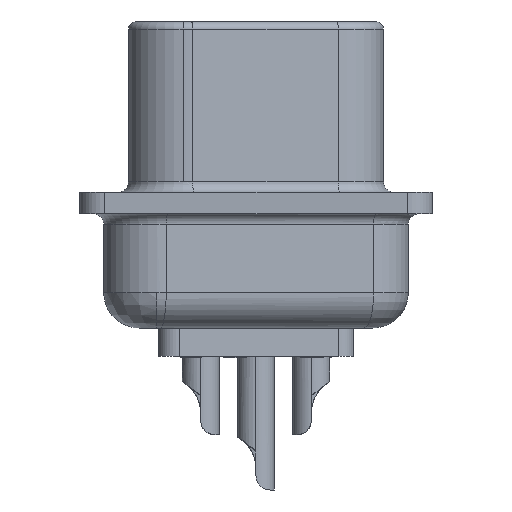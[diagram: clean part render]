
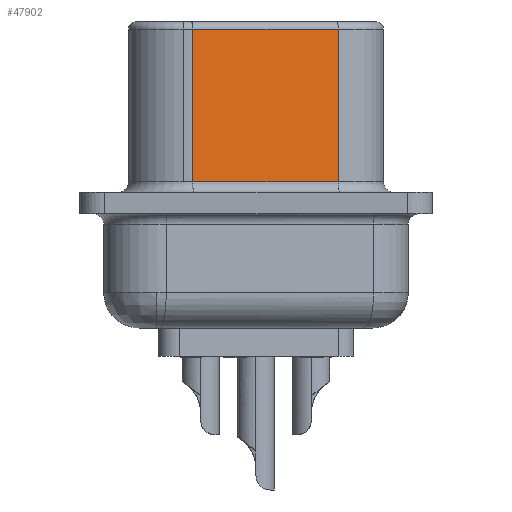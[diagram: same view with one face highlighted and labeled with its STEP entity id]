
A CAD part, left-side view. The second image highlights one B-rep face of the part: STEP entity #47902.
In plain terms, the highlighted planar face has unit normal (-0.985, -0.174, 0).
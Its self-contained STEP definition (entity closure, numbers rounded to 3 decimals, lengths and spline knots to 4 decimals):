
#6069 = VERTEX_POINT('',#6070);
#6070 = CARTESIAN_POINT('',(6.8003,8.5631,5.842));
#6085 = CYLINDRICAL_SURFACE('',#6086,1.9558);
#6086 = AXIS2_PLACEMENT_3D('',#6087,#6088,#6089);
#6087 = CARTESIAN_POINT('',(8.7264,8.9027,6.096));
#6088 = DIRECTION('',(-0.,-0.,-1.));
#6089 = DIRECTION('',(-1.,0.,0.));
#6112 = CYLINDRICAL_SURFACE('',#6113,0.254);
#6113 = AXIS2_PLACEMENT_3D('',#6114,#6115,#6116);
#6114 = CARTESIAN_POINT('',(7.9686,3.4002,5.842));
#6115 = DIRECTION('',(0.174,-0.985,0.));
#6116 = DIRECTION('',(0.985,0.174,0.));
#6273 = VERTEX_POINT('',#6274);
#6274 = CARTESIAN_POINT('',(6.8003,8.5631,0.381));
#6301 = EDGE_CURVE('',#6069,#6273,#6302,.T.);
#6302 = SURFACE_CURVE('',#6303,(#6307,#6314),.PCURVE_S1.);
#6303 = LINE('',#6304,#6305);
#6304 = CARTESIAN_POINT('',(6.8003,8.5631,6.096));
#6305 = VECTOR('',#6306,1.);
#6306 = DIRECTION('',(-0.,-0.,-1.));
#6307 = PCURVE('',#6085,#6308);
#6308 = DEFINITIONAL_REPRESENTATION('',(#6309),#6313);
#6309 = LINE('',#6310,#6311);
#6310 = CARTESIAN_POINT('',(6.109,0.));
#6311 = VECTOR('',#6312,1.);
#6312 = DIRECTION('',(0.,1.));
#6313 = ( GEOMETRIC_REPRESENTATION_CONTEXT(2) 
PARAMETRIC_REPRESENTATION_CONTEXT() REPRESENTATION_CONTEXT('2D SPACE',''
  ) );
#6314 = PCURVE('',#6315,#6320);
#6315 = PLANE('',#6316);
#6316 = AXIS2_PLACEMENT_3D('',#6317,#6318,#6319);
#6317 = CARTESIAN_POINT('',(7.7184,3.3561,6.096));
#6318 = DIRECTION('',(0.985,0.174,-0.));
#6319 = DIRECTION('',(-0.174,0.985,0.));
#6320 = DEFINITIONAL_REPRESENTATION('',(#6321),#6325);
#6321 = LINE('',#6322,#6323);
#6322 = CARTESIAN_POINT('',(5.287,0.));
#6323 = VECTOR('',#6324,1.);
#6324 = DIRECTION('',(0.,-1.));
#6325 = ( GEOMETRIC_REPRESENTATION_CONTEXT(2) 
PARAMETRIC_REPRESENTATION_CONTEXT() REPRESENTATION_CONTEXT('2D SPACE',''
  ) );
#45262 = CYLINDRICAL_SURFACE('',#45263,0.381);
#45263 = AXIS2_PLACEMENT_3D('',#45264,#45265,#45266);
#45264 = CARTESIAN_POINT('',(7.3432,3.2899,0.381));
#45265 = DIRECTION('',(0.174,-0.985,0.));
#45266 = DIRECTION('',(0.985,0.174,0.));
#46237 = EDGE_CURVE('',#46238,#46240,#46242,.T.);
#46238 = VERTEX_POINT('',#46239);
#46239 = CARTESIAN_POINT('',(7.7184,3.3561,5.842));
#46240 = VERTEX_POINT('',#46241);
#46241 = CARTESIAN_POINT('',(7.7184,3.3561,0.381));
#46242 = SURFACE_CURVE('',#46243,(#46247,#46259),.PCURVE_S1.);
#46243 = LINE('',#46244,#46245);
#46244 = CARTESIAN_POINT('',(7.7184,3.3561,6.096));
#46245 = VECTOR('',#46246,1.);
#46246 = DIRECTION('',(-0.,-0.,-1.));
#46247 = PCURVE('',#46248,#46253);
#46248 = CYLINDRICAL_SURFACE('',#46249,1.9558);
#46249 = AXIS2_PLACEMENT_3D('',#46250,#46251,#46252);
#46250 = CARTESIAN_POINT('',(9.6445,3.6957,6.096));
#46251 = DIRECTION('',(-0.,-0.,-1.));
#46252 = DIRECTION('',(-1.,0.,0.));
#46253 = DEFINITIONAL_REPRESENTATION('',(#46254),#46258);
#46254 = LINE('',#46255,#46256);
#46255 = CARTESIAN_POINT('',(6.109,0.));
#46256 = VECTOR('',#46257,1.);
#46257 = DIRECTION('',(0.,1.));
#46258 = ( GEOMETRIC_REPRESENTATION_CONTEXT(2) 
PARAMETRIC_REPRESENTATION_CONTEXT() REPRESENTATION_CONTEXT('2D SPACE',''
  ) );
#46259 = PCURVE('',#6315,#46260);
#46260 = DEFINITIONAL_REPRESENTATION('',(#46261),#46265);
#46261 = LINE('',#46262,#46263);
#46262 = CARTESIAN_POINT('',(0.,0.));
#46263 = VECTOR('',#46264,1.);
#46264 = DIRECTION('',(0.,-1.));
#46265 = ( GEOMETRIC_REPRESENTATION_CONTEXT(2) 
PARAMETRIC_REPRESENTATION_CONTEXT() REPRESENTATION_CONTEXT('2D SPACE',''
  ) );
#47902 = ADVANCED_FACE('',(#47903),#6315,.F.);
#47903 = FACE_BOUND('',#47904,.T.);
#47904 = EDGE_LOOP('',(#47905,#47906,#47927,#47928));
#47905 = ORIENTED_EDGE('',*,*,#6301,.T.);
#47906 = ORIENTED_EDGE('',*,*,#47907,.T.);
#47907 = EDGE_CURVE('',#6273,#46240,#47908,.T.);
#47908 = SURFACE_CURVE('',#47909,(#47913,#47920),.PCURVE_S1.);
#47909 = LINE('',#47910,#47911);
#47910 = CARTESIAN_POINT('',(7.7184,3.3561,0.381));
#47911 = VECTOR('',#47912,1.);
#47912 = DIRECTION('',(0.174,-0.985,0.));
#47913 = PCURVE('',#6315,#47914);
#47914 = DEFINITIONAL_REPRESENTATION('',(#47915),#47919);
#47915 = LINE('',#47916,#47917);
#47916 = CARTESIAN_POINT('',(0.,-5.715));
#47917 = VECTOR('',#47918,1.);
#47918 = DIRECTION('',(-1.,0.));
#47919 = ( GEOMETRIC_REPRESENTATION_CONTEXT(2) 
PARAMETRIC_REPRESENTATION_CONTEXT() REPRESENTATION_CONTEXT('2D SPACE',''
  ) );
#47920 = PCURVE('',#45262,#47921);
#47921 = DEFINITIONAL_REPRESENTATION('',(#47922),#47926);
#47922 = LINE('',#47923,#47924);
#47923 = CARTESIAN_POINT('',(6.283,0.));
#47924 = VECTOR('',#47925,1.);
#47925 = DIRECTION('',(0.,1.));
#47926 = ( GEOMETRIC_REPRESENTATION_CONTEXT(2) 
PARAMETRIC_REPRESENTATION_CONTEXT() REPRESENTATION_CONTEXT('2D SPACE',''
  ) );
#47927 = ORIENTED_EDGE('',*,*,#46237,.F.);
#47928 = ORIENTED_EDGE('',*,*,#47929,.T.);
#47929 = EDGE_CURVE('',#46238,#6069,#47930,.T.);
#47930 = SURFACE_CURVE('',#47931,(#47935,#47942),.PCURVE_S1.);
#47931 = LINE('',#47932,#47933);
#47932 = CARTESIAN_POINT('',(7.7184,3.3561,5.842));
#47933 = VECTOR('',#47934,1.);
#47934 = DIRECTION('',(-0.174,0.985,-0.));
#47935 = PCURVE('',#6315,#47936);
#47936 = DEFINITIONAL_REPRESENTATION('',(#47937),#47941);
#47937 = LINE('',#47938,#47939);
#47938 = CARTESIAN_POINT('',(0.,-0.254));
#47939 = VECTOR('',#47940,1.);
#47940 = DIRECTION('',(1.,0.));
#47941 = ( GEOMETRIC_REPRESENTATION_CONTEXT(2) 
PARAMETRIC_REPRESENTATION_CONTEXT() REPRESENTATION_CONTEXT('2D SPACE',''
  ) );
#47942 = PCURVE('',#6112,#47943);
#47943 = DEFINITIONAL_REPRESENTATION('',(#47944),#47948);
#47944 = LINE('',#47945,#47946);
#47945 = CARTESIAN_POINT('',(3.142,0.));
#47946 = VECTOR('',#47947,1.);
#47947 = DIRECTION('',(0.,-1.));
#47948 = ( GEOMETRIC_REPRESENTATION_CONTEXT(2) 
PARAMETRIC_REPRESENTATION_CONTEXT() REPRESENTATION_CONTEXT('2D SPACE',''
  ) );
